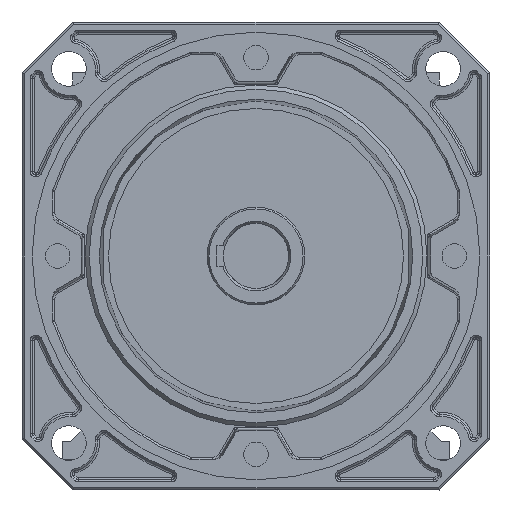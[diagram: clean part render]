
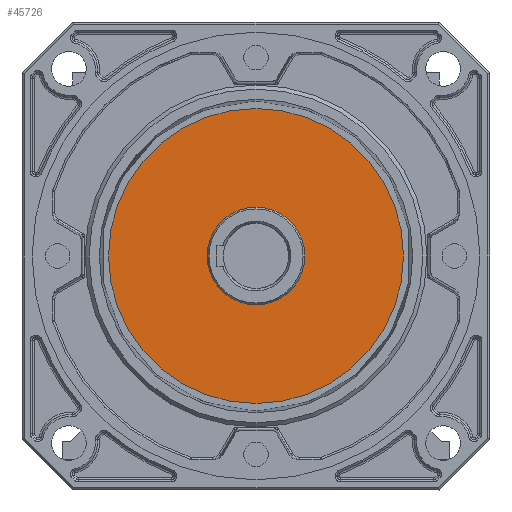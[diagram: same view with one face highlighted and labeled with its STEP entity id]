
A CAD part, left-side view. The second image highlights one B-rep face of the part: STEP entity #45726.
In plain terms, the highlighted planar face has unit normal (-1, 0, 0).
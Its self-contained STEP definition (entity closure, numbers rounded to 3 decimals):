
#1711=FACE_BOUND('',#8057,.T.);
#3053=CIRCLE('',#48477,24.);
#3054=CIRCLE('',#48479,72.5);
#5367=FACE_OUTER_BOUND('',#8056,.T.);
#8056=EDGE_LOOP('',(#30383));
#8057=EDGE_LOOP('',(#30384));
#18622=VERTEX_POINT('',#68066);
#18623=VERTEX_POINT('',#68069);
#23231=EDGE_CURVE('',#18622,#18622,#3053,.T.);
#23232=EDGE_CURVE('',#18623,#18623,#3054,.T.);
#30383=ORIENTED_EDGE('',*,*,#23232,.F.);
#30384=ORIENTED_EDGE('',*,*,#23231,.T.);
#44658=PLANE('',#48478);
#45726=ADVANCED_FACE('',(#5367,#1711),#44658,.T.);
#48477=AXIS2_PLACEMENT_3D('',#68067,#53785,#53786);
#48478=AXIS2_PLACEMENT_3D('',#68068,#53787,#53788);
#48479=AXIS2_PLACEMENT_3D('',#68070,#53789,#53790);
#53785=DIRECTION('center_axis',(1.,0.,0.));
#53786=DIRECTION('ref_axis',(0.,0.,-1.));
#53787=DIRECTION('center_axis',(-1.,0.,0.));
#53788=DIRECTION('ref_axis',(0.,0.,1.));
#53789=DIRECTION('center_axis',(1.,0.,0.));
#53790=DIRECTION('ref_axis',(0.,0.,-1.));
#68066=CARTESIAN_POINT('',(-139.,7274.885,-3768.217));
#68067=CARTESIAN_POINT('Origin',(-139.,7274.885,-3792.217));
#68068=CARTESIAN_POINT('Origin',(-139.,7274.885,-3719.717));
#68069=CARTESIAN_POINT('',(-139.,7274.885,-3719.717));
#68070=CARTESIAN_POINT('Origin',(-139.,7274.885,-3792.217));
